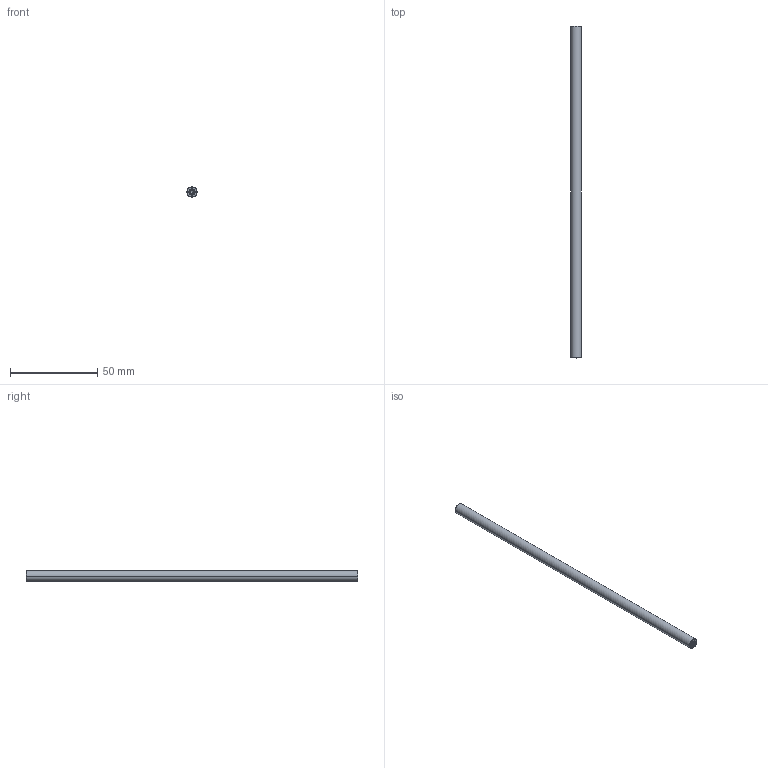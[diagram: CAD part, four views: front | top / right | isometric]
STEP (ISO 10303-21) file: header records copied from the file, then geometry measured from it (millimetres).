
FILE_DESCRIPTION((''),'2;1');
FILE_NAME('PCM-S_190','2021-04-19T',('Administrator'),(''),'CREO PARAMETRIC BY PTC INC, 2015290','CREO PARAMETRIC BY PTC INC, 2015290','');
FILE_SCHEMA(('CONFIG_CONTROL_DESIGN'));
Length unit declared in the file: millimetre
Products named in the file (1): PCM-S_190
Bounding box: 6 x 190 x 6 mm (x, y, z)
Volume: 5278.8 mm3; surface area: 3840.7 mm2
Topology: 1 solids, 1 shells, 93 faces, 253 edges, 160 vertices
Faces by surface type: cylinder 55, bspline 22, cone 14, plane 2
Entity records: 6468 total; most frequent: CARTESIAN_POINT 4433, ORIENTED_EDGE 498, DIRECTION 276, EDGE_CURVE 249, VERTEX_POINT 160, B_SPLINE_CURVE_WITH_KNOTS 139, AXIS2_PLACEMENT_3D 95, EDGE_LOOP 95
